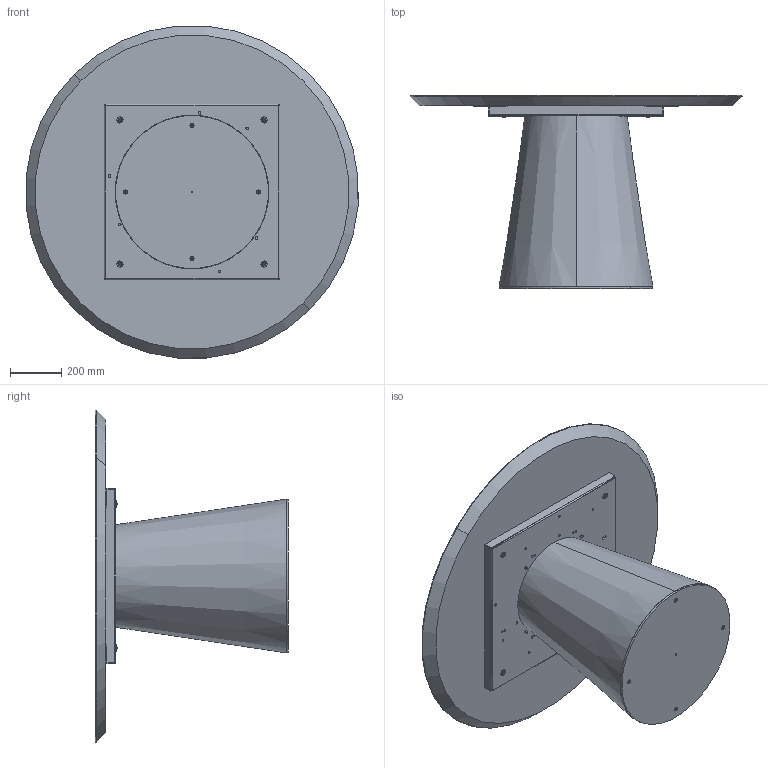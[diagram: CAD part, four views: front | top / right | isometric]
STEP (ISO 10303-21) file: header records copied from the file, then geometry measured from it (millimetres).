
FILE_DESCRIPTION (( 'STEP AP203' ), '1' );
FILE_NAME ('TO05W_Teo_d.130_Wood.STEP', '2024-08-02T09:18:05', ( '' ), ( '' ), 'SwSTEP 2.0', 'SolidWorks 2022', '' );
FILE_SCHEMA (( 'CONFIG_CONTROL_DESIGN' ));
Length unit declared in the file: millimetre
Products named in the file (12): M8xXXmm_M8x55mm; TO05W_Teo_d.130_Wood; TEO000000PIA-00-TEO PIASTRA DI BASE IN METALLO GREZZO; COLLO TELAIO UNIVERSALE TTAV0801 CON FERRAMENTA_MTG TOP LEGNO-MARMO-KING; TTAV0801-02-TELAIO UNIVERSALE TONDO-VASSOIO; TTAV0801 TELAIO UNIVERSALE TONDO-PIASTRINA; M8xXXmm_hex_M8X20mm; TTAV0801-02-TELAIO UNIVERSALE TONDO; TEO0000-00-TEO BASE LEGNO IMPIALLACCIATA LEVIGATO PRONTA X VERNICE; BASE TED LEGNO CON ZAVORRA; W1XCMXX-00-Piani Rotondi legno_D.1300; rondella M8_8X24
Assembly tree (23 placements, depth 4):
  TO05W_Teo_d.130_Wood
    BASE TED LEGNO CON ZAVORRA
      TEO000000PIA-00-TEO PIASTRA DI BASE IN METALLO GREZZO
      TEO0000-00-TEO BASE LEGNO IMPIALLACCIATA LEVIGATO PRONTA X VERNICE
      M8xXXmm_hex_M8X20mm  x4
    COLLO TELAIO UNIVERSALE TTAV0801 CON FERRAMENTA_MTG TOP LEGNO-MARMO-KING
      TTAV0801-02-TELAIO UNIVERSALE TONDO
        TTAV0801-02-TELAIO UNIVERSALE TONDO-VASSOIO
        TTAV0801 TELAIO UNIVERSALE TONDO-PIASTRINA  x4
      rondella M8_8X24  x4
      M8xXXmm_M8x55mm  x4
    W1XCMXX-00-Piani Rotondi legno_D.1300
Bounding box: 1295.05 x 753.19 x 1295.05 mm (x, y, z)
Volume: 80594887.4 mm3; surface area: 7155959.5 mm2
Topology: 20 solids, 20 shells, 806 faces, 2014 edges, 1238 vertices
Faces by surface type: plane 370, cylinder 290, cone 90, torus 56
Entity records: 15616 total; most frequent: DIRECTION 2540, CARTESIAN_POINT 2450, ORIENTED_EDGE 2330, EDGE_CURVE 1165, AXIS2_PLACEMENT_3D 919, VERTEX_POINT 743, VECTOR 702, LINE 702
